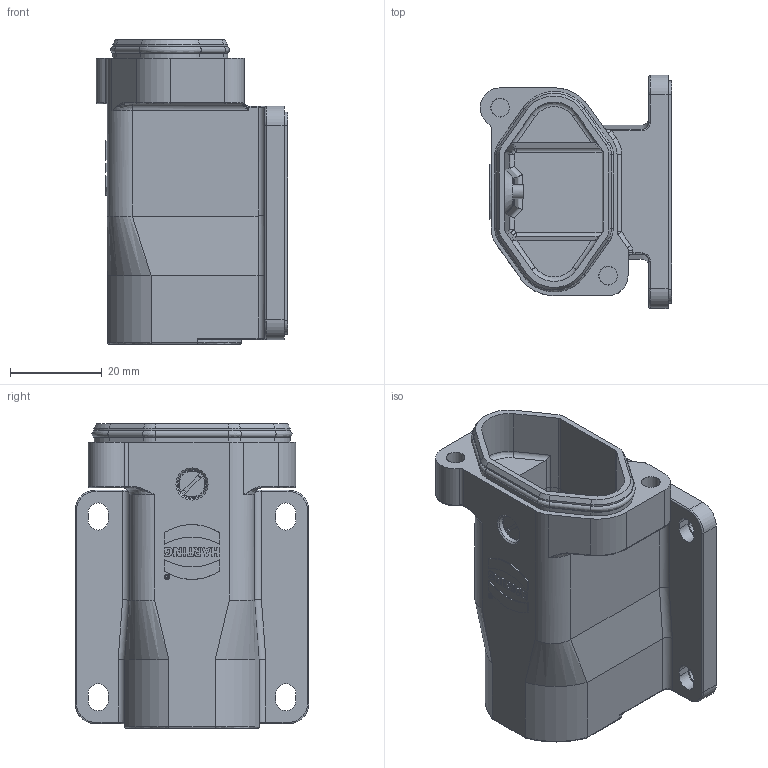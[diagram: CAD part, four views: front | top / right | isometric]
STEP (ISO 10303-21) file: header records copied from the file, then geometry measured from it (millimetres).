
FILE_DESCRIPTION(/* description */ (''),/* implementation_level */ '2;1');
FILE_NAME(/* name */ '100198407ugm000_c.stp',/* time_stamp */ '2017-11-06T08:45:09+01:00',/* author */ (''),/* organization */ (''),/* preprocessor_version */ 'ST-DEVELOPER v16',/* originating_system */ 'SIEMENS PLM Software NX 10.0',/* authorisation */ '');
FILE_SCHEMA (('AUTOMOTIVE_DESIGN { 1 0 10303 214 3 1 1 1 }'));
Length unit declared in the file: millimetre
Products named in the file (1): 100198407ugm000_c
Bounding box: 41.85 x 51 x 66.5 mm (x, y, z)
Volume: 33806 mm3; surface area: 22557.8 mm2
Topology: 2 solids, 2 shells, 691 faces, 1748 edges, 1085 vertices
Faces by surface type: plane 328, cylinder 206, bspline 109, cone 40, revolution 6, sphere 2
Full cylindrical faces by diameter (mm): 0.904 x1, 1.183 x1, 3 x1, 3.1 x1, 4 x2, 6.4 x1, 23.6 x1
Entity records: 27606 total; most frequent: CARTESIAN_POINT 6822, ORIENTED_EDGE 3418, DIRECTION 3191, EDGE_CURVE 1709, AXIS2_PLACEMENT_3D 1082, VERTEX_POINT 1073, LINE 1021, VECTOR 1021
